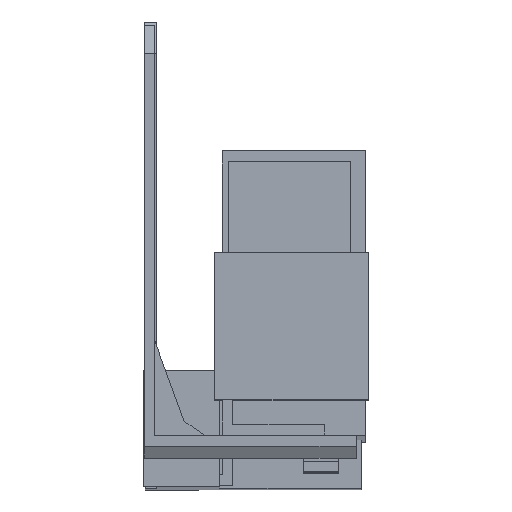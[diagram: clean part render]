
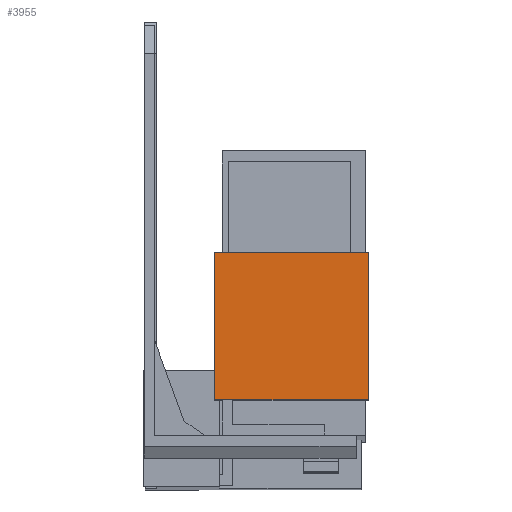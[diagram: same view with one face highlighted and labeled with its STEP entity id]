
A CAD part, front view. The second image highlights one B-rep face of the part: STEP entity #3955.
In plain terms, the highlighted planar face has unit normal (0, -1, 0.003).
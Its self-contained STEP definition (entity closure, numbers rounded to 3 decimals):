
#15 = CARTESIAN_POINT ( 'NONE',  ( 31.95, -28.952, -19.322 ) ) ;
#19 = CARTESIAN_POINT ( 'NONE',  ( 10.05, -28.952, -19.322 ) ) ;
#40 = CARTESIAN_POINT ( 'NONE',  ( 10.05, -29.009, -40.322 ) ) ;
#47 = VERTEX_POINT ( 'NONE', #15 ) ;
#48 = VERTEX_POINT ( 'NONE', #19 ) ;
#59 = VERTEX_POINT ( 'NONE', #40 ) ;
#75 = VERTEX_POINT ( 'NONE', #81 ) ;
#81 = CARTESIAN_POINT ( 'NONE',  ( 31.95, -29.009, -40.322 ) ) ;
#220 = VECTOR ( 'NONE', #3086, 1000. ) ;
#274 = FACE_OUTER_BOUND ( 'NONE', #2367, .T. ) ;
#521 = EDGE_CURVE ( 'NONE', #47, #75, #1260, .T. ) ;
#567 = VECTOR ( 'NONE', #3848, 1000. ) ;
#569 = LINE ( 'NONE', #3612, #567 ) ;
#570 = VECTOR ( 'NONE', #3610, 1000. ) ;
#572 = LINE ( 'NONE', #3609, #570 ) ;
#914 = ORIENTED_EDGE ( 'NONE', *, *, #2724, .F. ) ;
#1118 = VECTOR ( 'NONE', #4747, 1000. ) ;
#1120 = LINE ( 'NONE', #4870, #1118 ) ;
#1260 = LINE ( 'NONE', #3082, #220 ) ;
#1313 = AXIS2_PLACEMENT_3D ( 'NONE', #4171, #4177, #4178 ) ;
#1453 = ORIENTED_EDGE ( 'NONE', *, *, #2725, .T. ) ;
#1455 = ORIENTED_EDGE ( 'NONE', *, *, #2527, .F. ) ;
#1654 = ORIENTED_EDGE ( 'NONE', *, *, #521, .F. ) ;
#2367 = EDGE_LOOP ( 'NONE', ( #914, #1455, #1453, #1654 ) ) ;
#2527 = EDGE_CURVE ( 'NONE', #59, #48, #1120, .T. ) ;
#2724 = EDGE_CURVE ( 'NONE', #48, #47, #572, .T. ) ;
#2725 = EDGE_CURVE ( 'NONE', #59, #75, #569, .T. ) ;
#3082 = CARTESIAN_POINT ( 'NONE',  ( 31.95, -28.952, -19.322 ) ) ;
#3086 = DIRECTION ( 'NONE',  ( 0., -0.003, -1. ) ) ;
#3609 = CARTESIAN_POINT ( 'NONE',  ( 9.3, -28.952, -19.322 ) ) ;
#3610 = DIRECTION ( 'NONE',  ( 1., 0., 0. ) ) ;
#3612 = CARTESIAN_POINT ( 'NONE',  ( 9.3, -29.009, -40.322 ) ) ;
#3848 = DIRECTION ( 'NONE',  ( 1., 0., 0. ) ) ;
#3955 = ADVANCED_FACE ( 'NONE', ( #274 ), #4168, .T. ) ;
#4168 = PLANE ( 'NONE',  #1313 ) ;
#4171 = CARTESIAN_POINT ( 'NONE',  ( 9.3, -29.009, -40.322 ) ) ;
#4177 = DIRECTION ( 'NONE',  ( 0., -1., 0.003 ) ) ;
#4178 = DIRECTION ( 'NONE',  ( -1., 0., 0. ) ) ;
#4747 = DIRECTION ( 'NONE',  ( 0., 0.003, 1. ) ) ;
#4870 = CARTESIAN_POINT ( 'NONE',  ( 10.05, -29.009, -40.322 ) ) ;
